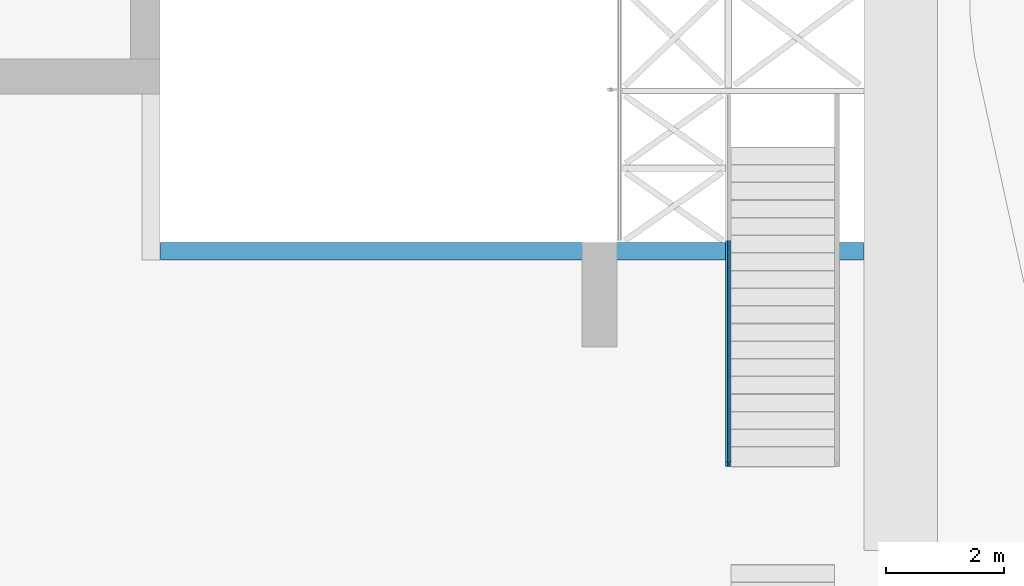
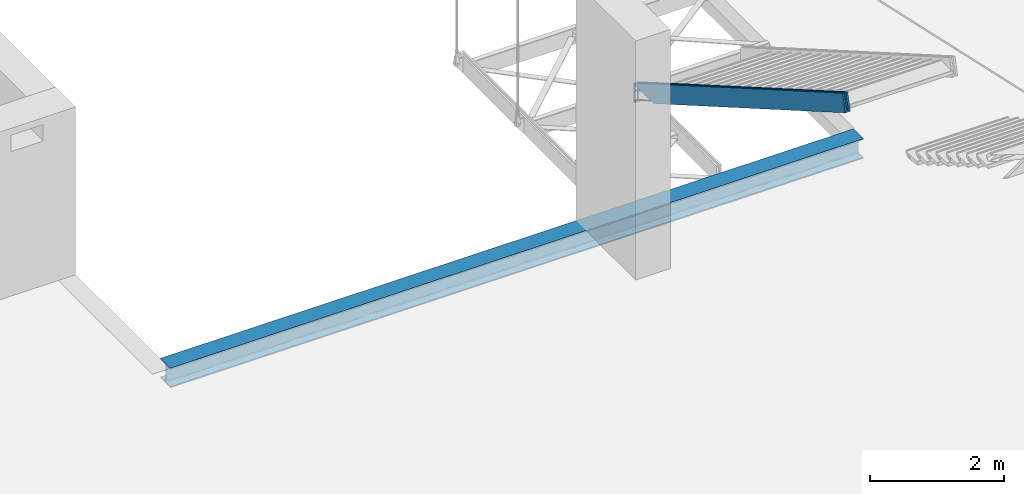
# One storey, part 14 of 34: 2 beams.
"""IFC2X3 building model written with IfcOpenShell, lengths in millimetres."""

from ifc_helpers import new_model, entity, si_unit, converted_unit, derived_unit, direction, frame, frame_2d, origin, place, context, subcontext, project, spatial, polyline, i_section, outline, extrude, source, transform, mapped, material, material_list, type_object, type_shapes, element, save


model = new_model("IFC2X3")

# Units and contexts
model_context = context("Model", 3, precision=0.01, world=origin(), true_north=direction((6.12303176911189e-17, 1.0)))
body_context = subcontext(model_context, "Body", "Model", "MODEL_VIEW")
ifc_project = project(units=[si_unit("LENGTHUNIT", "METRE", prefix="MILLI"), si_unit("AREAUNIT", "SQUARE_METRE", prefix="MILLI"), si_unit("VOLUMEUNIT", "CUBIC_METRE"), converted_unit("PLANEANGLEUNIT", "DEGREE", entity("IfcRatioMeasure", 0.0174532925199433), si_unit("PLANEANGLEUNIT", "RADIAN"), dimensions=[0, 0, 0, 0, 0, 0, 0]), si_unit("MASSUNIT", "GRAM", prefix="KILO"), derived_unit("MASSDENSITYUNIT", [(si_unit("MASSUNIT", "GRAM", prefix="KILO"), 1), (si_unit("LENGTHUNIT", "METRE"), -3)]), derived_unit("MOMENTOFINERTIAUNIT", [(si_unit("LENGTHUNIT", "METRE"), 4)]), si_unit("TIMEUNIT", "SECOND"), si_unit("FREQUENCYUNIT", "HERTZ"), si_unit("THERMODYNAMICTEMPERATUREUNIT", "DEGREE_CELSIUS"), derived_unit("THERMALTRANSMITTANCEUNIT", [(si_unit("MASSUNIT", "GRAM", prefix="KILO"), 1), (si_unit("THERMODYNAMICTEMPERATUREUNIT", "KELVIN"), -1), (si_unit("TIMEUNIT", "SECOND"), -3)]), derived_unit("VOLUMETRICFLOWRATEUNIT", [(si_unit("LENGTHUNIT", "METRE"), 3), (si_unit("TIMEUNIT", "SECOND"), -1)]), si_unit("ELECTRICCURRENTUNIT", "AMPERE"), si_unit("ELECTRICVOLTAGEUNIT", "VOLT"), si_unit("POWERUNIT", "WATT"), si_unit("FORCEUNIT", "NEWTON", prefix="KILO"), si_unit("ILLUMINANCEUNIT", "LUX"), si_unit("LUMINOUSFLUXUNIT", "LUMEN"), si_unit("LUMINOUSINTENSITYUNIT", "CANDELA"), derived_unit("USERDEFINED", [(si_unit("MASSUNIT", "GRAM", prefix="KILO"), -1), (si_unit("LENGTHUNIT", "METRE"), -2), (si_unit("TIMEUNIT", "SECOND"), 3), (si_unit("LUMINOUSFLUXUNIT", "LUMEN"), 1)]), derived_unit("LINEARVELOCITYUNIT", [(si_unit("LENGTHUNIT", "METRE"), 1), (si_unit("TIMEUNIT", "SECOND"), -1)]), si_unit("PRESSUREUNIT", "PASCAL"), derived_unit("USERDEFINED", [(si_unit("LENGTHUNIT", "METRE"), -2), (si_unit("MASSUNIT", "GRAM", prefix="KILO"), 1), (si_unit("TIMEUNIT", "SECOND"), -2)]), derived_unit("LINEARFORCEUNIT", [(si_unit("MASSUNIT", "GRAM", prefix="KILO"), 1), (si_unit("LENGTHUNIT", "METRE"), 1), (si_unit("TIMEUNIT", "SECOND"), -2), (si_unit("LENGTHUNIT", "METRE"), -1)]), derived_unit("PLANARFORCEUNIT", [(si_unit("MASSUNIT", "GRAM", prefix="KILO"), 1), (si_unit("LENGTHUNIT", "METRE"), 1), (si_unit("TIMEUNIT", "SECOND"), -2), (si_unit("LENGTHUNIT", "METRE"), -2)])], contexts=[model_context])

# Site, building, storey
site_placement = place(None, origin())
site = spatial("IfcSite", under=ifc_project, at=site_placement, Name="Theater aan de Parade", CompositionType="ELEMENT")
building_placement = place(site_placement, origin())
building = spatial("IfcBuilding", under=site, at=building_placement, Name="Theater aan de Parade", CompositionType="ELEMENT")
storey_placement = place(building_placement, frame((0.0, 0.0, 3.49116848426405e-09)))
storey = spatial("IfcBuildingStorey", under=building, at=storey_placement, Name="00 begane grond", CompositionType="ELEMENT", Elevation=3.49116848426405e-09)

# Beams
ifc_material = material(Name="00_PBT_MAT_staal_S355")
beam_type_1 = type_object("IfcBeamType", Name="28_PBT_SF_staal_H-profiel (void):S355_HE360B", PredefinedType="NOTDEFINED")
beam_1_placement = place(storey_placement, frame((29525.0, 25704.8674033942, -1.03275941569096e-09)))
element("IfcBeam", 1, at=beam_1_placement, inside=storey, type_object=beam_type_1, material=ifc_material, Name="28_PBT_SF_staal_H-profiel (void):S355_HE360B", ObjectType="28_PBT_SF_staal_H-profiel (void):S355_HE360B", context=body_context, shape_type="SweptSolid", body=[
    extrude(i_section(OverallWidth=300.000000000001, OverallDepth=360.0, WebThickness=12.5000000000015, FlangeThickness=22.4999999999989, FilletRadius=26.999999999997, at=frame_2d((-4.12114786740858e-13, 2.1600499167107e-12), x_axis=(0.0, 1.0))), frame((162.699999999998, 0.0, -270.0), z_axis=(1.0, 0.0, 0.0), x_axis=(0.0, 0.0, -1.0)), (0.0, 0.0, 1.0), 11953.4683762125),
])
ifc_material_list_1 = material_list([ifc_material, ifc_material, ifc_material, ifc_material, ifc_material, ifc_material, ifc_material])
ifc_material_list_2 = material_list([ifc_material, ifc_material, ifc_material, ifc_material, ifc_material, ifc_material, ifc_material])
beam_type_2 = type_object("IfcBeamType", Name="28_PBT_SF_staal_trapboom_glas:trapboom", PredefinedType="BEAM", material=ifc_material_list_2)
shared_shape = source(origin(), body_context, "Body", "SweptSolid", [
    extrude(outline(polyline([(-3453.84634890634, -10.0), (3439.19377910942, -10.0), (3473.8551736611, 10.0), (-3459.20260386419, 10.0), (-3453.84634890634, -10.0)])), frame((39326.8281932, 25040.8462974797, 1637.50000000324), z_axis=(1.0, 0.0, 0.0), x_axis=(0.0, 0.866152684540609, -0.499779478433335)), (0.0, 0.0, 1.0), 30.0000000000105),
    extrude(outline(polyline([(-17.1038603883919, -10.0), (5.54327140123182, -10.0), (40.2046659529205, 10.0), (-28.6440769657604, 10.0), (-17.1038603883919, -10.0)])), frame((39326.8281932, 28349.1584549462, -271.431940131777), z_axis=(1.0, 0.0, 0.0), x_axis=(0.0, -0.866152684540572, 0.499779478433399)), (0.0, 0.0, 1.0), 30.0000000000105),
    extrude(outline(polyline([(-147.388058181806, -10.0), (112.726663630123, -10.0), (147.38805818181, 10.0), (-112.726663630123, 10.0), (-147.388058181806, -10.0)])), frame((39326.8281932, 28182.0351787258, -175.0), z_axis=(1.0, 0.0, 0.0), x_axis=(0.0, 0.866152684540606, -0.499779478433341)), (0.0, 0.0, 1.0), 30.0000000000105),
    extrude(outline(polyline([(-1801.84911329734, -191.154346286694), (5410.52233498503, -191.154346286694), (5327.50038313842, 118.845653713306), (-1285.41619831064, 118.845653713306), (-1804.70676612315, -180.790627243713), (-1959.63840443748, 87.7167049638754), (-1905.68976570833, 118.845653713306), (-1980.72247024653, 118.845653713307), (-1801.84911329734, -191.154346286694)])), frame((39296.8281932, 26712.7593382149, 775.363119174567), z_axis=(1.0, 0.0, 0.0), x_axis=(0.0, -0.866152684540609, 0.499779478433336)), (0.0, 0.0, 1.0), 30.0000000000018),
    extrude(outline(polyline([(-3603.91253456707, -10.0), (3589.25996477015, -10.0), (3623.92135932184, 10.0), (-3609.26878952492, 10.0), (-3603.91253456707, -10.0)])), frame((39326.8281932, 25210.9984392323, 1712.50000000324), z_axis=(1.0, 0.0, 0.0), x_axis=(0.0, 0.866152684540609, -0.499779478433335)), (0.0, 0.0, 1.0), 30.0000000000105),
    extrude(outline(polyline([(0.214911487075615, -10.3250189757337), (3.33723677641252, -10.3250189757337), (-3.3705688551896, 1.30007590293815), (11.1437256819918, 9.67498102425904), (-11.3253050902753, 9.67498102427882), (0.214911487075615, -10.3250189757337)])), frame((39326.8281932, 28363.9967178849, -107.189394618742), z_axis=(1.0, 0.0, 0.0), x_axis=(0.0, -0.86615268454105, 0.49977947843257)), (0.0, 0.0, 1.0), 30.0000000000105),
    extrude(outline(polyline([(-1584.32809308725, -5176.89061261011), (-1263.40342203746, -5176.89061261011), (447.332122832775, 1210.9141440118), (292.234260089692, 1790.04215029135), (591.681478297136, 1870.23793264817), (607.794458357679, 1810.07283525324), (627.205124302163, 1882.55133411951), (281.484071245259, 1789.96282889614), (-1584.32809308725, -5176.89061261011)])), frame((39356.8281932, 26712.7593382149, 775.363119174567), z_axis=(1.0, 0.0, 0.0), x_axis=(0.0, -0.25869607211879, -0.965958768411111)), (0.0, 0.0, 1.0), 29.9999999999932),
])
type_shapes(beam_type_2, [shared_shape])
beam_2_placement = place(storey_placement, frame((0.0, 0.0, -3.49116848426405e-09)))
element("IfcBeam", 2, at=beam_2_placement, inside=storey, type_object=beam_type_2, material=ifc_material_list_1, Name="28_PBT_SF_staal_trapboom_glas:trapboom", ObjectType="28_PBT_SF_staal_trapboom_glas:trapboom", context=body_context, shape_type="MappedRepresentation", body=[
    mapped(shared_shape, transform((0.0, 0.0, 0.0), scale=1.0)),
])

save(model, "model.ifc")
